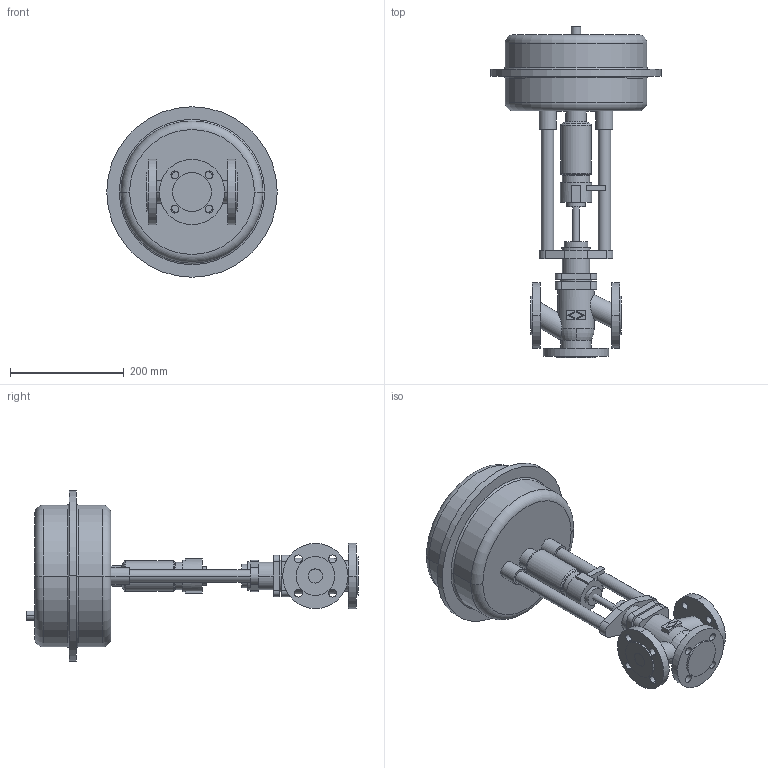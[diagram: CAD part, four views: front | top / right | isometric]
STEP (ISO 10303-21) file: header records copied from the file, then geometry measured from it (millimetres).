
FILE_DESCRIPTION(('OneSpaceDesigner STEP Export'),'2;1');
FILE_NAME('c000000662.stp','2006-09-19T10:00:22',(''),(''),'OneSpace Designer STEP processor for AP214 (Solid Model)','OneSpace Designer 13.20A 18-Aug-2005 (C) CoCreate Software GmbH','');
FILE_SCHEMA(('AUTOMOTIVE_DESIGN { 1 0 10303 214 1 1 1 1 }'));
Length unit declared in the file: millimetre
Products named in the file (2): 1; 2
Bounding box: 300 x 584.6 x 300 mm (x, y, z)
Volume: 8495261.6 mm3; surface area: 452131.1 mm2
Topology: 2 solids, 2 shells, 199 faces, 481 edges, 316 vertices
Faces by surface type: cylinder 96, plane 81, torus 18, cone 4
Entity records: 5339 total; most frequent: CARTESIAN_POINT 1001, ORIENTED_EDGE 962, DIRECTION 798, EDGE_CURVE 481, VERTEX_POINT 316, AXIS2_PLACEMENT_3D 288, EDGE_LOOP 253, VECTOR 222
